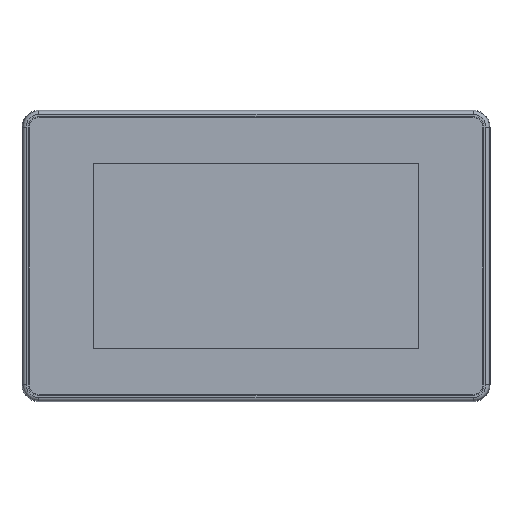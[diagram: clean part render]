
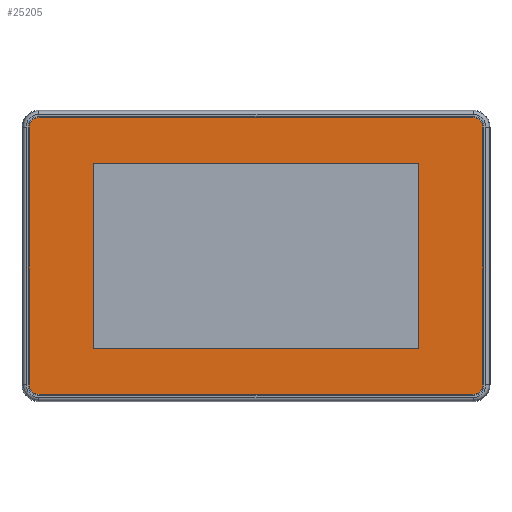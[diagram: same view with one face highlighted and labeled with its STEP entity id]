
A CAD part, top view. The second image highlights one B-rep face of the part: STEP entity #25205.
In plain terms, the highlighted planar face has unit normal (0, 0, 1).
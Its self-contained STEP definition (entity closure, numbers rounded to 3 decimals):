
#7709=DIRECTION('',(0.,1.,0.));
#7710=VECTOR('',#7709,75.715);
#7711=CARTESIAN_POINT('',(66.857,-37.857,5.88));
#7712=LINE('',#7711,#7710);
#7721=DIRECTION('',(1.,0.,0.));
#7722=VECTOR('',#7721,127.715);
#7723=CARTESIAN_POINT('',(-63.857,-40.857,5.88));
#7724=LINE('',#7723,#7722);
#7741=DIRECTION('',(-1.,0.,0.));
#7742=VECTOR('',#7741,127.715);
#7743=CARTESIAN_POINT('',(63.857,40.857,5.88));
#7744=LINE('',#7743,#7742);
#7745=CARTESIAN_POINT('',(63.857,37.857,5.88));
#7746=DIRECTION('',(0.,0.,-1.));
#7747=DIRECTION('',(0.,1.,0.));
#7748=AXIS2_PLACEMENT_3D('',#7745,#7746,#7747);
#7750=CARTESIAN_POINT('',(63.857,-37.857,5.88));
#7751=DIRECTION('',(0.,0.,-1.));
#7752=DIRECTION('',(1.,0.,0.));
#7753=AXIS2_PLACEMENT_3D('',#7750,#7751,#7752);
#7755=CARTESIAN_POINT('',(-63.857,-37.857,5.88));
#7756=DIRECTION('',(0.,0.,-1.));
#7757=DIRECTION('',(0.,-1.,0.));
#7758=AXIS2_PLACEMENT_3D('',#7755,#7756,#7757);
#7760=DIRECTION('',(0.,1.,0.));
#7761=VECTOR('',#7760,75.715);
#7762=CARTESIAN_POINT('',(-66.857,-37.857,5.88));
#7763=LINE('',#7762,#7761);
#7764=CARTESIAN_POINT('',(-63.857,37.857,5.88));
#7765=DIRECTION('',(0.,0.,-1.));
#7766=DIRECTION('',(-1.,0.,0.));
#7767=AXIS2_PLACEMENT_3D('',#7764,#7765,#7766);
#7769=DIRECTION('',(0.,-1.,0.));
#7770=VECTOR('',#7769,54.36);
#7771=CARTESIAN_POINT('',(-47.77,27.18,5.88));
#7772=LINE('',#7771,#7770);
#7773=DIRECTION('',(1.,0.,0.));
#7774=VECTOR('',#7773,95.54);
#7775=CARTESIAN_POINT('',(-47.77,-27.18,5.88));
#7776=LINE('',#7775,#7774);
#7777=DIRECTION('',(0.,1.,0.));
#7778=VECTOR('',#7777,54.36);
#7779=CARTESIAN_POINT('',(47.77,-27.18,5.88));
#7780=LINE('',#7779,#7778);
#7781=DIRECTION('',(-1.,0.,0.));
#7782=VECTOR('',#7781,95.54);
#7783=CARTESIAN_POINT('',(47.77,27.18,5.88));
#7784=LINE('',#7783,#7782);
#12003=CARTESIAN_POINT('',(63.857,40.857,5.88));
#12004=CARTESIAN_POINT('',(66.857,37.857,5.88));
#12005=VERTEX_POINT('',#12003);
#12006=VERTEX_POINT('',#12004);
#12007=CARTESIAN_POINT('',(66.857,-37.857,5.88));
#12008=VERTEX_POINT('',#12007);
#12009=CARTESIAN_POINT('',(63.857,-40.857,5.88));
#12010=VERTEX_POINT('',#12009);
#12011=CARTESIAN_POINT('',(-63.857,-40.857,5.88));
#12012=VERTEX_POINT('',#12011);
#12013=CARTESIAN_POINT('',(-66.857,-37.857,5.88));
#12014=VERTEX_POINT('',#12013);
#12015=CARTESIAN_POINT('',(-66.857,37.857,5.88));
#12016=VERTEX_POINT('',#12015);
#12017=CARTESIAN_POINT('',(-63.857,40.857,5.88));
#12018=VERTEX_POINT('',#12017);
#12019=CARTESIAN_POINT('',(-47.77,27.18,5.88));
#12020=CARTESIAN_POINT('',(-47.77,-27.18,5.88));
#12021=VERTEX_POINT('',#12019);
#12022=VERTEX_POINT('',#12020);
#12023=CARTESIAN_POINT('',(47.77,-27.18,5.88));
#12024=VERTEX_POINT('',#12023);
#12025=CARTESIAN_POINT('',(47.77,27.18,5.88));
#12026=VERTEX_POINT('',#12025);
#25180=CARTESIAN_POINT('',(0.,0.,5.88));
#25181=DIRECTION('',(0.,0.,1.));
#25182=DIRECTION('',(1.,0.,0.));
#25183=AXIS2_PLACEMENT_3D('',#25180,#25181,#25182);
#25184=PLANE('',#25183);
#25185=ORIENTED_EDGE('',*,*,#25076,.T.);
#25186=ORIENTED_EDGE('',*,*,#25091,.F.);
#25187=ORIENTED_EDGE('',*,*,#25105,.T.);
#25188=ORIENTED_EDGE('',*,*,#25119,.F.);
#25189=ORIENTED_EDGE('',*,*,#25133,.T.);
#25190=ORIENTED_EDGE('',*,*,#25147,.T.);
#25191=ORIENTED_EDGE('',*,*,#25161,.T.);
#25192=ORIENTED_EDGE('',*,*,#25174,.F.);
#25193=EDGE_LOOP('',(#25185,#25186,#25187,#25188,#25189,#25190,#25191,#25192));
#25194=FACE_OUTER_BOUND('',#25193,.F.);
#25196=ORIENTED_EDGE('',*,*,#25195,.T.);
#25198=ORIENTED_EDGE('',*,*,#25197,.T.);
#25200=ORIENTED_EDGE('',*,*,#25199,.T.);
#25202=ORIENTED_EDGE('',*,*,#25201,.T.);
#25203=EDGE_LOOP('',(#25196,#25198,#25200,#25202));
#25204=FACE_BOUND('',#25203,.F.);
#25205=ADVANCED_FACE('',(#25194,#25204),#25184,.T.);
#7749=CIRCLE('',#7748,3.);
#7754=CIRCLE('',#7753,3.);
#7759=CIRCLE('',#7758,3.);
#7768=CIRCLE('',#7767,3.);
#25076=EDGE_CURVE('',#12005,#12006,#7749,.T.);
#25091=EDGE_CURVE('',#12008,#12006,#7712,.T.);
#25105=EDGE_CURVE('',#12008,#12010,#7754,.T.);
#25119=EDGE_CURVE('',#12012,#12010,#7724,.T.);
#25133=EDGE_CURVE('',#12012,#12014,#7759,.T.);
#25147=EDGE_CURVE('',#12014,#12016,#7763,.T.);
#25161=EDGE_CURVE('',#12016,#12018,#7768,.T.);
#25174=EDGE_CURVE('',#12005,#12018,#7744,.T.);
#25195=EDGE_CURVE('',#12021,#12022,#7772,.T.);
#25197=EDGE_CURVE('',#12022,#12024,#7776,.T.);
#25199=EDGE_CURVE('',#12024,#12026,#7780,.T.);
#25201=EDGE_CURVE('',#12026,#12021,#7784,.T.);
